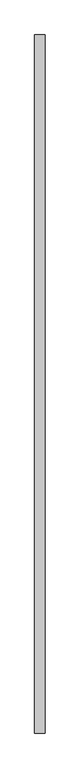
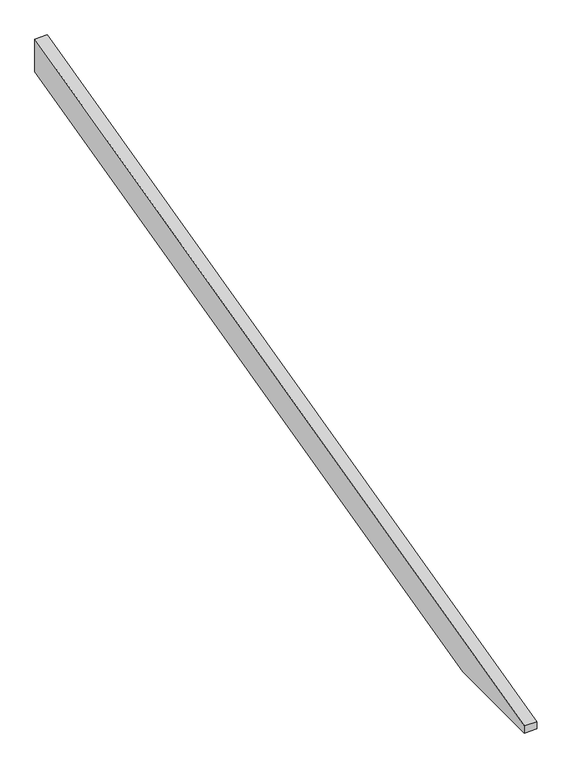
"""IFC4 building model written with IfcOpenShell, lengths in millimetres: proxy geometry, Modelos genéricos 12 : Modelos genéricos 12."""

from ifc_helpers import new_model, si_unit, frame, origin, place, context, project, spatial, polyline, outline, extrude, source, transform, mapped, element, save


def generic_models_18122483(model_context):
    return source(origin(), model_context, "Body", "SweptSolid", [
        extrude(outline(polyline([(-2181.3761835, 3197.4798401), (1878.6238165, 4209.7515316), (1878.6238165, 4044.8533509), (-1670.3291324, 3160.0), (-2181.3761835, 3160.0), (-2181.3761835, 3197.4798401)])), frame((-12676.5527533, 0.0, 0.0), z_axis=(1.0, 0.0, 0.0), x_axis=(0.0, 1.0, 0.0)), (0.0, 0.0, 1.0), 60.0),
    ])


if __name__ == "__main__":
    model = new_model("IFC4")
    model_context = context("Model", 3, world=origin())
    ifc_project = project(units=[si_unit("LENGTHUNIT", "METRE", prefix="MILLI")], contexts=[model_context])
    site = spatial("IfcSite", under=ifc_project)
    building = spatial("IfcBuilding", under=site)
    placement = place(None, origin())
    generic_models_shape = generic_models_18122483(model_context)
    element("IfcBuildingElementProxy", 1, Name="Modelos genéricos 12 : Modelos genéricos 12", ObjectType="Modelos genéricos 12 : Modelos genéricos 12", at=placement, inside=building, context=model_context, shape_type="MappedRepresentation", body=[
        mapped(generic_models_shape, transform((0.0, 0.0, 0.0), x_axis=(1.0, 0.0, 0.0), y_axis=(0.0, 1.0, 0.0), z_axis=(0.0, 0.0, 1.0))),
    ])
    save(model, "model.ifc")
